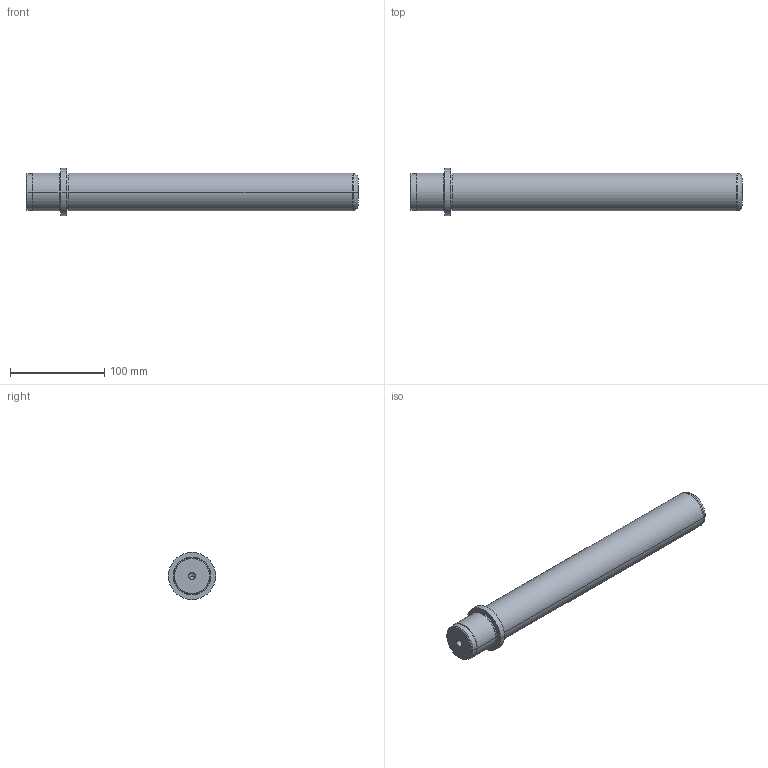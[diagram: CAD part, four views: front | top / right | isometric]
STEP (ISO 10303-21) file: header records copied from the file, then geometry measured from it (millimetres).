
FILE_DESCRIPTION( ( 'STEP AP203' ), '1' );
FILE_NAME( 'D:/Delta 3 D/D00/D00 - 40x315x37.step', '2003-01-02T07:15:03', ( ' ' ), ( ' ' ), 'XStep 1.0', ' ', ' ' );
FILE_SCHEMA( ( 'CONFIG_CONTROL_DESIGN' ) );
Length unit declared in the file: metre
Products named in the file (1): 1
Bounding box: 352 x 50 x 50 mm (x, y, z)
Volume: 443076.2 mm3; surface area: 49360.7 mm2
Topology: 1 solids, 1 shells, 39 faces, 78 edges, 48 vertices
Faces by surface type: revolution 28, bspline 11
Entity records: 1137 total; most frequent: CARTESIAN_POINT 277, DIRECTION 154, ORIENTED_EDGE 152, EDGE_CURVE 76, AXIS2_PLACEMENT_3D 49, EDGE_LOOP 48, VERTEX_POINT 48, CIRCLE 48
